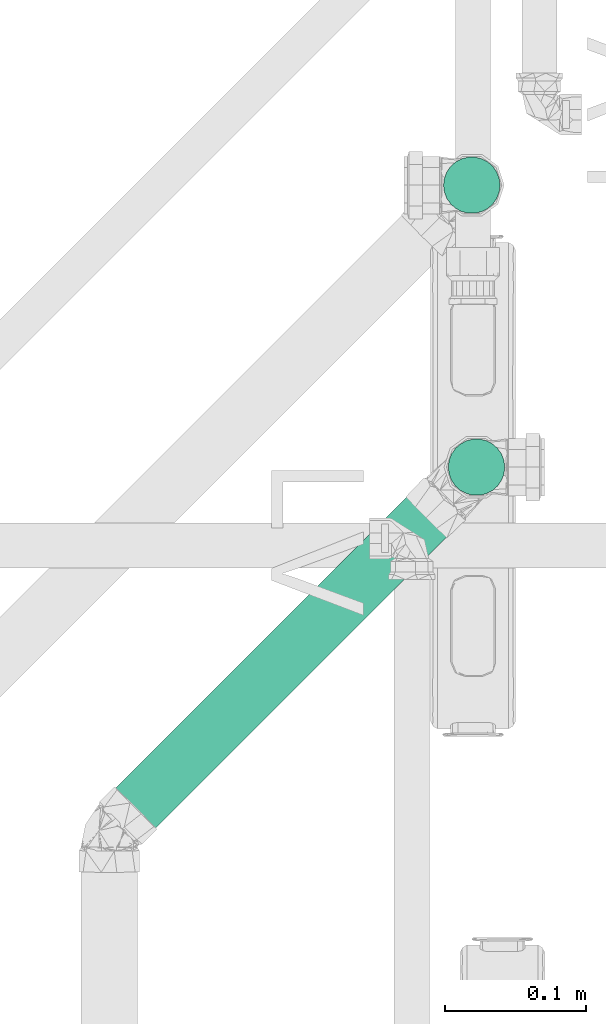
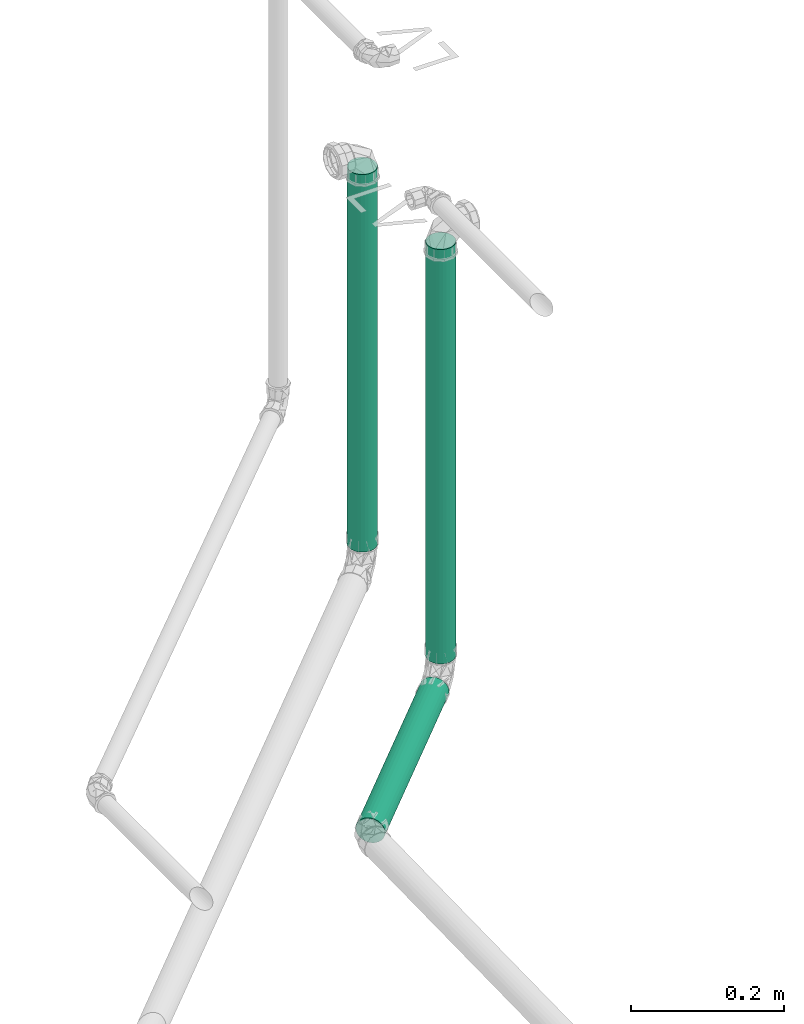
# One storey, part 107 of 589: 3 flow segments.
"""IFC2X3 building model written with IfcOpenShell, lengths in millimetres."""

from ifc_helpers import new_model, entity, si_unit, converted_unit, derived_unit, direction, frame, frame_2d, origin, origin_2d_with_axis, place, context, subcontext, project, spatial, circle, extrude, type_object, element, save


model = new_model("IFC2X3")

# Units and contexts
model_context = context("Model", 3, precision=0.01, world=origin(), true_north=direction((6.123031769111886e-17, 1.0)))
body_context = subcontext(model_context, "Body", "Model", "MODEL_VIEW")
ifc_project = project(units=[si_unit("LENGTHUNIT", "METRE", prefix="MILLI"), si_unit("AREAUNIT", "SQUARE_METRE"), si_unit("VOLUMEUNIT", "CUBIC_METRE"), converted_unit("PLANEANGLEUNIT", "DEGREE", entity("IfcRatioMeasure", 0.017453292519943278), si_unit("PLANEANGLEUNIT", "RADIAN"), dimensions=[0, 0, 0, 0, 0, 0, 0]), si_unit("MASSUNIT", "GRAM", prefix="KILO"), derived_unit("MASSDENSITYUNIT", [(si_unit("MASSUNIT", "GRAM", prefix="KILO"), 1), (si_unit("LENGTHUNIT", "METRE"), -3)]), derived_unit("IONCONCENTRATIONUNIT", [(si_unit("MASSUNIT", "GRAM", prefix="KILO"), 1), (si_unit("LENGTHUNIT", "METRE"), -3)]), derived_unit("MOMENTOFINERTIAUNIT", [(si_unit("LENGTHUNIT", "METRE"), 4)]), si_unit("TIMEUNIT", "SECOND"), si_unit("FREQUENCYUNIT", "HERTZ"), si_unit("THERMODYNAMICTEMPERATUREUNIT", "DEGREE_CELSIUS"), derived_unit("THERMALTRANSMITTANCEUNIT", [(si_unit("MASSUNIT", "GRAM", prefix="KILO"), 1), (si_unit("THERMODYNAMICTEMPERATUREUNIT", "KELVIN"), -1), (si_unit("TIMEUNIT", "SECOND"), -3)]), derived_unit("THERMALCONDUCTANCEUNIT", [(si_unit("MASSUNIT", "GRAM", prefix="KILO"), 1), (si_unit("THERMODYNAMICTEMPERATUREUNIT", "KELVIN"), -1), (si_unit("TIMEUNIT", "SECOND"), -3), (si_unit("LENGTHUNIT", "METRE"), 1)]), derived_unit("VOLUMETRICFLOWRATEUNIT", [(si_unit("LENGTHUNIT", "METRE"), 3), (si_unit("TIMEUNIT", "SECOND"), -1)]), derived_unit("MASSFLOWRATEUNIT", [(si_unit("MASSUNIT", "GRAM", prefix="KILO"), 1), (si_unit("TIMEUNIT", "SECOND"), -1)]), derived_unit("ROTATIONALFREQUENCYUNIT", [(si_unit("TIMEUNIT", "SECOND"), -1)]), si_unit("ELECTRICCURRENTUNIT", "AMPERE"), si_unit("ELECTRICVOLTAGEUNIT", "VOLT"), si_unit("POWERUNIT", "WATT"), si_unit("FORCEUNIT", "NEWTON", prefix="KILO"), si_unit("ILLUMINANCEUNIT", "LUX"), si_unit("LUMINOUSFLUXUNIT", "LUMEN"), si_unit("LUMINOUSINTENSITYUNIT", "CANDELA"), derived_unit("USERDEFINED", [(si_unit("MASSUNIT", "GRAM", prefix="KILO"), -1), (si_unit("LENGTHUNIT", "METRE"), -2), (si_unit("TIMEUNIT", "SECOND"), 3), (si_unit("LUMINOUSFLUXUNIT", "LUMEN"), 1)]), derived_unit("USERDEFINED", [(si_unit("MASSUNIT", "GRAM", prefix="KILO"), 1), (si_unit("TIMEUNIT", "SECOND"), -3), (si_unit("LENGTHUNIT", "METRE"), 3), (si_unit("ELECTRICCURRENTUNIT", "AMPERE"), -2)]), derived_unit("SOUNDPOWERUNIT", [(si_unit("MASSUNIT", "GRAM", prefix="KILO"), 1), (si_unit("TIMEUNIT", "SECOND"), -3), (si_unit("LENGTHUNIT", "METRE"), 2)]), derived_unit("SOUNDPRESSUREUNIT", [(si_unit("MASSUNIT", "GRAM", prefix="KILO"), 1), (si_unit("LENGTHUNIT", "METRE"), -1), (si_unit("TIMEUNIT", "SECOND"), -2)]), derived_unit("LINEARVELOCITYUNIT", [(si_unit("LENGTHUNIT", "METRE"), 1), (si_unit("TIMEUNIT", "SECOND"), -1)]), si_unit("PRESSUREUNIT", "PASCAL"), derived_unit("USERDEFINED", [(si_unit("MASSUNIT", "GRAM", prefix="KILO"), 1), (si_unit("LENGTHUNIT", "METRE"), -2), (si_unit("TIMEUNIT", "SECOND"), -2)]), derived_unit("LINEARFORCEUNIT", [(si_unit("MASSUNIT", "GRAM", prefix="KILO"), 1), (si_unit("TIMEUNIT", "SECOND"), -2)]), derived_unit("PLANARFORCEUNIT", [(si_unit("MASSUNIT", "GRAM", prefix="KILO"), 1), (si_unit("LENGTHUNIT", "METRE"), -1), (si_unit("TIMEUNIT", "SECOND"), -2)]), derived_unit("SPECIFICHEATCAPACITYUNIT", [(si_unit("THERMODYNAMICTEMPERATUREUNIT", "KELVIN"), -1), (si_unit("LENGTHUNIT", "METRE"), 2), (si_unit("TIMEUNIT", "SECOND"), -2)]), derived_unit("HEATINGVALUEUNIT", [(si_unit("LENGTHUNIT", "METRE"), 2), (si_unit("TIMEUNIT", "SECOND"), -2)]), derived_unit("VAPORPERMEABILITYUNIT", [(si_unit("LENGTHUNIT", "METRE"), -1), (si_unit("TIMEUNIT", "SECOND"), 1)]), derived_unit("DYNAMICVISCOSITYUNIT", [(si_unit("MASSUNIT", "GRAM", prefix="KILO"), 1), (si_unit("TIMEUNIT", "SECOND"), -1), (si_unit("LENGTHUNIT", "METRE"), -1)]), derived_unit("THERMALEXPANSIONCOEFFICIENTUNIT", [(si_unit("THERMODYNAMICTEMPERATUREUNIT", "KELVIN"), -1)]), derived_unit("MODULUSOFELASTICITYUNIT", [(si_unit("MASSUNIT", "GRAM", prefix="KILO"), 1), (si_unit("LENGTHUNIT", "METRE"), -1), (si_unit("TIMEUNIT", "SECOND"), -2)]), derived_unit("ISOTHERMALMOISTURECAPACITYUNIT", [(si_unit("LENGTHUNIT", "METRE"), 3), (si_unit("MASSUNIT", "GRAM", prefix="KILO"), -1)]), derived_unit("MOISTUREDIFFUSIVITYUNIT", [(si_unit("TIMEUNIT", "SECOND"), -1), (si_unit("LENGTHUNIT", "METRE"), 2)])], contexts=[model_context])

# Site, building, storey
site_placement = place(None, origin())
site = spatial("IfcSite", under=ifc_project, at=site_placement, Name="Default", CompositionType="ELEMENT")
building_placement = place(site_placement, origin())
building = spatial("IfcBuilding", under=site, at=building_placement, CompositionType="ELEMENT")
storey_placement = place(building_placement, frame((0.0, 0.0, 100.0)))
storey = spatial("IfcBuildingStorey", under=building, at=storey_placement, Name="TÉRREO", CompositionType="ELEMENT", Elevation=100.0)

# Flow segments
pipe_segment_type = type_object("IfcPipeSegmentType", Name="Tipos de tubos:PVC Esgoto Série Normal", PredefinedType="NOTDEFINED")
flow_segment_1_placement = place(storey_placement, origin())
element("IfcFlowSegment", 1, at=flow_segment_1_placement, inside=storey, type_object=pipe_segment_type, Name="Tipos de tubos:PVC Esgoto Série Normal", ObjectType="Tipos de tubos:PVC Esgoto Série Normal", context=body_context, shape_type="SweptSolid", body=[
    extrude(circle(Radius=20.0, at=frame_2d((-2.3925816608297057e-14, -4.737083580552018e-16), x_axis=(1.0, 0.0))), frame((135.42041534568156, -6399.037314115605, -224.0601731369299), z_axis=(0.7070389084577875, 0.7068975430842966, 0.019795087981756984), x_axis=(-0.7070360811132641, 0.7071774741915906, 0.0)), (0.0, 0.0, 1.0), 324.02997175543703),
])
flow_segment_2_placement = place(storey_placement, origin())
element("IfcFlowSegment", 2, at=flow_segment_2_placement, inside=storey, type_object=pipe_segment_type, Name="Tipos de tubos:PVC Esgoto Série Normal", ObjectType="Tipos de tubos:PVC Esgoto Série Normal", context=body_context, shape_type="SweptSolid", body=[
    extrude(circle(Radius=20.0, at=origin_2d_with_axis()), frame((387.2972868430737, -6147.210802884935, -184.79642334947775)), (0.0, 0.0, 1.0), 662.9964233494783),
])
flow_segment_3_placement = place(storey_placement, origin())
element("IfcFlowSegment", 3, at=flow_segment_3_placement, inside=storey, type_object=pipe_segment_type, Name="Tipos de tubos:PVC Esgoto Série Normal", ObjectType="Tipos de tubos:PVC Esgoto Série Normal", context=body_context, shape_type="SweptSolid", body=[
    extrude(circle(Radius=20.0, at=frame_2d((6.767919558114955e-14, 0.0), x_axis=(1.0, 0.0))), frame((383.93980265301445, -5947.531283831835, -125.98003686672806)), (0.0, 0.0, 1.0), 604.1800368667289),
])

save(model, "model.ifc")
